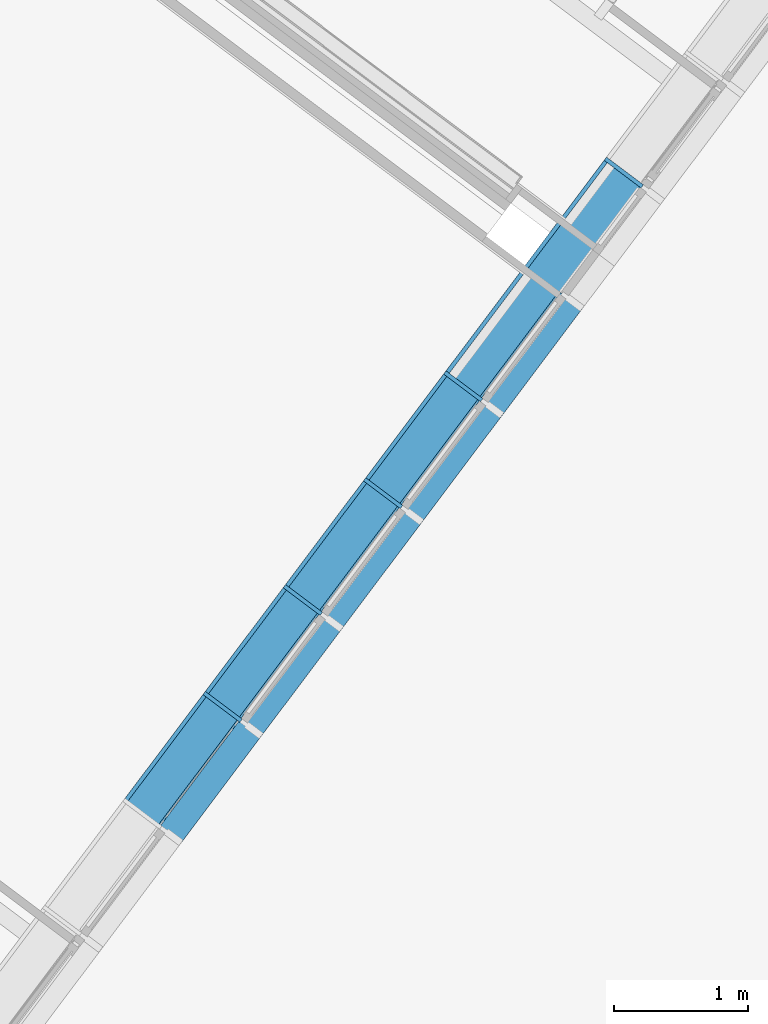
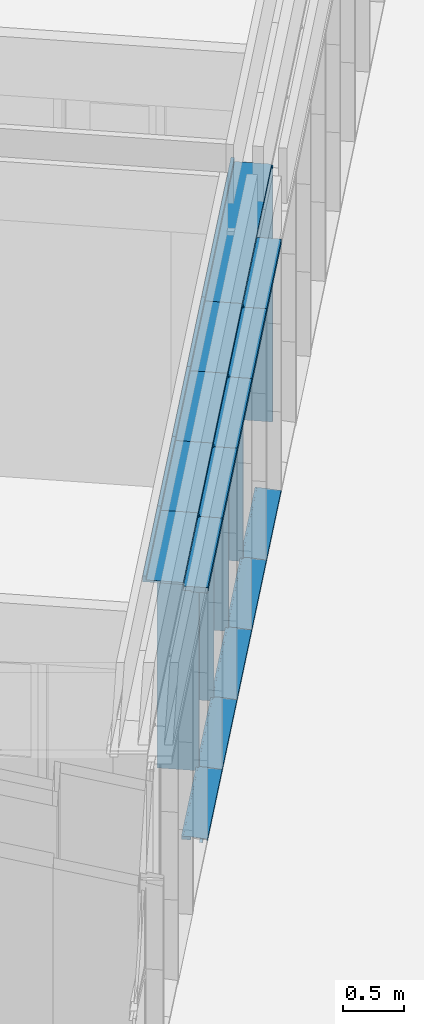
# One storey, part 14 of 243: 20 members, 2 elements without a shape of their own.
"""IFC2X3 building model written with IfcOpenShell, lengths in metres."""

from ifc_helpers import new_model, entity, si_unit, converted_unit, derived_unit, direction, frame, frame_2d, origin, place, context, subcontext, project, spatial, polyline, circle_curve, parameter, trimmed, segment, composite_curve, rectangle, outline, extrude, source, transform, mapped, material, type_object, type_shapes, element, aggregate, save


model = new_model("IFC2X3")

# Units and contexts
model_context = context("Model", 3, precision=1e-05, world=origin(), true_north=direction((6.123031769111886e-17, 1.0)))
body_context = subcontext(model_context, "Body", "Model", "MODEL_VIEW")
ifc_project = project(units=[si_unit("LENGTHUNIT", "METRE"), si_unit("AREAUNIT", "SQUARE_METRE"), si_unit("VOLUMEUNIT", "CUBIC_METRE"), converted_unit("PLANEANGLEUNIT", "DEGREE", entity("IfcRatioMeasure", 0.017453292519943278), si_unit("PLANEANGLEUNIT", "RADIAN"), dimensions=[0, 0, 0, 0, 0, 0, 0]), si_unit("MASSUNIT", "GRAM", prefix="KILO"), derived_unit("MASSDENSITYUNIT", [(si_unit("MASSUNIT", "GRAM", prefix="KILO"), 1), (si_unit("LENGTHUNIT", "METRE"), -3)]), derived_unit("IONCONCENTRATIONUNIT", [(si_unit("MASSUNIT", "GRAM", prefix="KILO"), 1), (si_unit("LENGTHUNIT", "METRE"), -3)]), derived_unit("MOMENTOFINERTIAUNIT", [(si_unit("LENGTHUNIT", "METRE"), 4)]), si_unit("TIMEUNIT", "SECOND"), si_unit("FREQUENCYUNIT", "HERTZ"), si_unit("THERMODYNAMICTEMPERATUREUNIT", "DEGREE_CELSIUS"), derived_unit("THERMALTRANSMITTANCEUNIT", [(si_unit("MASSUNIT", "GRAM", prefix="KILO"), 1), (si_unit("THERMODYNAMICTEMPERATUREUNIT", "KELVIN"), -1), (si_unit("TIMEUNIT", "SECOND"), -3)]), derived_unit("THERMALCONDUCTANCEUNIT", [(si_unit("MASSUNIT", "GRAM", prefix="KILO"), 1), (si_unit("THERMODYNAMICTEMPERATUREUNIT", "KELVIN"), -1), (si_unit("TIMEUNIT", "SECOND"), -3), (si_unit("LENGTHUNIT", "METRE"), 1)]), derived_unit("VOLUMETRICFLOWRATEUNIT", [(si_unit("LENGTHUNIT", "METRE"), 3), (si_unit("TIMEUNIT", "SECOND"), -1)]), derived_unit("MASSFLOWRATEUNIT", [(si_unit("MASSUNIT", "GRAM", prefix="KILO"), 1), (si_unit("TIMEUNIT", "SECOND"), -1)]), derived_unit("ROTATIONALFREQUENCYUNIT", [(si_unit("TIMEUNIT", "SECOND"), -1)]), si_unit("ELECTRICCURRENTUNIT", "AMPERE"), si_unit("ELECTRICVOLTAGEUNIT", "VOLT"), si_unit("POWERUNIT", "WATT"), si_unit("FORCEUNIT", "NEWTON", prefix="KILO"), si_unit("ILLUMINANCEUNIT", "LUX"), si_unit("LUMINOUSFLUXUNIT", "LUMEN"), si_unit("LUMINOUSINTENSITYUNIT", "CANDELA"), derived_unit("USERDEFINED", [(si_unit("MASSUNIT", "GRAM", prefix="KILO"), -1), (si_unit("LENGTHUNIT", "METRE"), -2), (si_unit("TIMEUNIT", "SECOND"), 3), (si_unit("LUMINOUSFLUXUNIT", "LUMEN"), 1)]), derived_unit("USERDEFINED", [(si_unit("MASSUNIT", "GRAM", prefix="KILO"), 1), (si_unit("TIMEUNIT", "SECOND"), -3), (si_unit("LENGTHUNIT", "METRE"), 3), (si_unit("ELECTRICCURRENTUNIT", "AMPERE"), -2)]), derived_unit("SOUNDPOWERUNIT", [(si_unit("MASSUNIT", "GRAM", prefix="KILO"), 1), (si_unit("TIMEUNIT", "SECOND"), -3), (si_unit("LENGTHUNIT", "METRE"), 2)]), derived_unit("SOUNDPRESSUREUNIT", [(si_unit("MASSUNIT", "GRAM", prefix="KILO"), 1), (si_unit("LENGTHUNIT", "METRE"), -1), (si_unit("TIMEUNIT", "SECOND"), -2)]), derived_unit("LINEARVELOCITYUNIT", [(si_unit("LENGTHUNIT", "METRE"), 1), (si_unit("TIMEUNIT", "SECOND"), -1)]), si_unit("PRESSUREUNIT", "PASCAL"), derived_unit("USERDEFINED", [(si_unit("MASSUNIT", "GRAM", prefix="KILO"), 1), (si_unit("LENGTHUNIT", "METRE"), -2), (si_unit("TIMEUNIT", "SECOND"), -2)]), derived_unit("LINEARFORCEUNIT", [(si_unit("MASSUNIT", "GRAM", prefix="KILO"), 1), (si_unit("TIMEUNIT", "SECOND"), -2)]), derived_unit("PLANARFORCEUNIT", [(si_unit("MASSUNIT", "GRAM", prefix="KILO"), 1), (si_unit("LENGTHUNIT", "METRE"), -1), (si_unit("TIMEUNIT", "SECOND"), -2)]), derived_unit("SPECIFICHEATCAPACITYUNIT", [(si_unit("THERMODYNAMICTEMPERATUREUNIT", "KELVIN"), -1), (si_unit("LENGTHUNIT", "METRE"), 2), (si_unit("TIMEUNIT", "SECOND"), -2)]), derived_unit("HEATINGVALUEUNIT", [(si_unit("LENGTHUNIT", "METRE"), 2), (si_unit("TIMEUNIT", "SECOND"), -2)]), derived_unit("VAPORPERMEABILITYUNIT", [(si_unit("LENGTHUNIT", "METRE"), -1), (si_unit("TIMEUNIT", "SECOND"), 1)]), derived_unit("DYNAMICVISCOSITYUNIT", [(si_unit("MASSUNIT", "GRAM", prefix="KILO"), 1), (si_unit("TIMEUNIT", "SECOND"), -1), (si_unit("LENGTHUNIT", "METRE"), -1)]), derived_unit("THERMALEXPANSIONCOEFFICIENTUNIT", [(si_unit("THERMODYNAMICTEMPERATUREUNIT", "KELVIN"), -1)]), derived_unit("MODULUSOFELASTICITYUNIT", [(si_unit("MASSUNIT", "GRAM", prefix="KILO"), 1), (si_unit("LENGTHUNIT", "METRE"), -1), (si_unit("TIMEUNIT", "SECOND"), -2)]), derived_unit("ISOTHERMALMOISTURECAPACITYUNIT", [(si_unit("LENGTHUNIT", "METRE"), 3), (si_unit("MASSUNIT", "GRAM", prefix="KILO"), -1)]), derived_unit("MOISTUREDIFFUSIVITYUNIT", [(si_unit("TIMEUNIT", "SECOND"), -1), (si_unit("LENGTHUNIT", "METRE"), 2)])], contexts=[model_context])

# Site, building, storey
site_placement = place(None, frame((0.0, 0.0, 235.0), z_axis=(0.0, 0.0, 1.0), x_axis=(-0.7996477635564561, 0.6004693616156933, 0.0)))
site = spatial("IfcSite", under=ifc_project, at=site_placement, Name="Default", CompositionType="ELEMENT")
building_placement = place(site_placement, origin())
building = spatial("IfcBuilding", under=site, at=building_placement, CompositionType="ELEMENT")
storey_placement = place(building_placement, origin())
storey = spatial("IfcBuildingStorey", under=building, at=storey_placement, Name="P0- Escola", CompositionType="ELEMENT", Elevation=0.0)

# Curtain wall, members
curtain_wall_type_1 = type_object("IfcCurtainWallType", Name="Muro cortina:MC- EXT- MC2", PredefinedType="NOTDEFINED")
curtain_wall_1_placement = place(storey_placement, origin())
curtain_wall_1 = element("IfcCurtainWall", 1, at=curtain_wall_1_placement, inside=storey, type_object=curtain_wall_type_1, Name="Muro cortina:MC- EXT- MC2", ObjectType="Muro cortina:MC- EXT- MC2")
ifc_material_1 = material(Name="_Alumini- T1- Perfil")
member_type_1 = type_object("IfcMemberType", Name="Montante rectangular:MC- Alu- 140x52,5 cm- Fa patis- Superior", PredefinedType="MULLION", material=ifc_material_1)
shared_shape_1 = source(origin(), body_context, "Body", "SweptSolid", [
    extrude(outline(polyline([(-0.11366666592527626, -0.021249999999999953), (0.026333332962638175, -0.021249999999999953), (0.026333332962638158, -0.010000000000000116), (0.0873333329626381, -0.010000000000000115), (0.0873333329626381, 0.03125000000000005), (-0.11366666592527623, 0.031250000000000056), (-0.11366666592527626, -0.021249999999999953)])), frame((-0.031250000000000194, 0.0273333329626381, -1.0), z_axis=(0.0, 0.0, 1.0), x_axis=(0.0, -1.0, 0.0)), (0.0, 0.0, 1.0), 0.9999999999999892),
])
type_shapes(member_type_1, [shared_shape_1])
member_1_placement = place(curtain_wall_1_placement, frame((5.885147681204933, -29.990191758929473, 2.525), z_axis=(0.0, -1.0, 0.0), x_axis=(0.0, 0.0, 1.0)))
member_1 = element("IfcMember", 2, at=member_1_placement, type_object=member_type_1, material=ifc_material_1, Name="Montante rectangular:MC- Alu- 140x52,5 cm- Fa patis- Superior", ObjectType="Montante rectangular:MC- Alu- 140x52,5 cm- Fa patis- Superior", context=body_context, shape_type="MappedRepresentation", body=[
    mapped(shared_shape_1, transform((0.0, 0.0, 0.0), scale=1.0)),
])
member_2_placement = place(curtain_wall_1_placement, frame((5.885147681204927, -30.990191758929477, 2.525), z_axis=(0.0, -1.0, 0.0), x_axis=(0.0, 0.0, 1.0)))
member_2 = element("IfcMember", 3, at=member_2_placement, type_object=member_type_1, material=ifc_material_1, Name="Montante rectangular:MC- Alu- 140x52,5 cm- Fa patis- Superior", ObjectType="Montante rectangular:MC- Alu- 140x52,5 cm- Fa patis- Superior", context=body_context, shape_type="MappedRepresentation", body=[
    mapped(shared_shape_1, transform((0.0, 0.0, 0.0), scale=1.0)),
])
member_3_placement = place(curtain_wall_1_placement, frame((5.885147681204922, -31.990191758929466, 2.525), z_axis=(0.0, -1.0, 0.0), x_axis=(0.0, 0.0, 1.0)))
member_3 = element("IfcMember", 4, at=member_3_placement, type_object=member_type_1, material=ifc_material_1, Name="Montante rectangular:MC- Alu- 140x52,5 cm- Fa patis- Superior", ObjectType="Montante rectangular:MC- Alu- 140x52,5 cm- Fa patis- Superior", context=body_context, shape_type="MappedRepresentation", body=[
    mapped(shared_shape_1, transform((0.0, 0.0, 0.0), scale=1.0)),
])
member_4_placement = place(curtain_wall_1_placement, frame((5.8851476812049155, -32.99019175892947, 2.525), z_axis=(0.0, -1.0, 0.0), x_axis=(0.0, 0.0, 1.0)))
member_4 = element("IfcMember", 5, at=member_4_placement, type_object=member_type_1, material=ifc_material_1, Name="Montante rectangular:MC- Alu- 140x52,5 cm- Fa patis- Superior", ObjectType="Montante rectangular:MC- Alu- 140x52,5 cm- Fa patis- Superior", context=body_context, shape_type="MappedRepresentation", body=[
    mapped(shared_shape_1, transform((0.0, 0.0, 0.0), scale=1.0)),
])
member_5_placement = place(curtain_wall_1_placement, frame((5.88514768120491, -33.99019175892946, 2.525), z_axis=(0.0, -1.0, 0.0), x_axis=(0.0, 0.0, 1.0)))
member_5 = element("IfcMember", 6, at=member_5_placement, type_object=member_type_1, material=ifc_material_1, Name="Montante rectangular:MC- Alu- 140x52,5 cm- Fa patis- Superior", ObjectType="Montante rectangular:MC- Alu- 140x52,5 cm- Fa patis- Superior", context=body_context, shape_type="MappedRepresentation", body=[
    mapped(shared_shape_1, transform((0.0, 0.0, 0.0), scale=1.0)),
])
member_type_2 = type_object("IfcMemberType", Name="Montante rectangular:MC- Alu- 140x52,5 cm- Fa patis- inferior", PredefinedType="MULLION", material=ifc_material_1)
shared_shape_2 = source(origin(), body_context, "Body", "SweptSolid", [
    extrude(outline(composite_curve([segment(polyline([(0.1278672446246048, -0.02586710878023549), (0.14416724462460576, -0.025867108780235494)]), True, "CONTINUOUS"), segment(polyline([(0.14416724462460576, -0.025867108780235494), (0.1441672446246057, 0.009132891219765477)]), True, "CONTINUOUS"), segment(polyline([(0.1441672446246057, 0.009132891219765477), (0.06786724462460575, 0.009132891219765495)]), True, "CONTINUOUS"), segment(polyline([(0.06786724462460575, 0.009132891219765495), (0.06786724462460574, -0.021159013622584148)]), True, "CONTINUOUS"), segment(polyline([(0.06786724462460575, -0.02115901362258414), (-0.030132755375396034, -0.012332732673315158)]), True, "CONTINUOUS"), segment(polyline([(-0.03013275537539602, -0.012332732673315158), (-0.030132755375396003, 0.027132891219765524)]), True, "CONTINUOUS"), segment(polyline([(-0.030132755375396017, 0.02713289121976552), (-0.0021327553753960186, 0.02713289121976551)]), True, "CONTINUOUS"), segment(polyline([(-0.0021327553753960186, 0.027132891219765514), (-0.0021327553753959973, 0.029132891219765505)]), True, "CONTINUOUS"), segment(polyline([(-0.0021327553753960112, 0.029132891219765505), (-0.032132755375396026, 0.029132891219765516)]), True, "CONTINUOUS"), segment(polyline([(-0.032132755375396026, 0.029132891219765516), (-0.03213275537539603, -0.012152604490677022)]), True, "CONTINUOUS"), segment(polyline([(-0.03213275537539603, -0.012152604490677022), (-0.0701327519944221, -0.008730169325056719)]), True, "CONTINUOUS"), segment(polyline([(-0.0701327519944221, -0.008730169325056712), (-0.0701327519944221, 0.005766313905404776)]), True, "CONTINUOUS"), segment(trimmed(circle_curve(frame_2d((-0.0696327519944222, 0.0057663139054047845), x_axis=(-1.0, 0.0)), 0.0004999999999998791), [parameter(269.999999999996)], [parameter(0.0)], True, "PARAMETER"), False, "CONTINUOUS"), segment(polyline([(-0.0696327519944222, 0.00626631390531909), (-0.06213275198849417, 0.006266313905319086)]), True, "CONTINUOUS"), segment(polyline([(-0.06213275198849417, 0.006266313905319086), (-0.06213275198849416, 0.008266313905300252)]), True, "CONTINUOUS"), segment(polyline([(-0.06213275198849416, 0.008266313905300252), (-0.07013275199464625, 0.008266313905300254)]), True, "CONTINUOUS"), segment(trimmed(circle_curve(frame_2d((-0.07013275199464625, 0.006266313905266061), x_axis=(0.0, 1.0)), 0.0020000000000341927), [parameter(0.0)], [parameter(90.00000002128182)], True, "PARAMETER"), True, "CONTINUOUS"), segment(polyline([(-0.07213275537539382, 0.006266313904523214), (-0.07213275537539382, -0.008730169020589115)]), True, "CONTINUOUS"), segment(trimmed(circle_curve(frame_2d((-0.07013275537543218, -0.008730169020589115), x_axis=(-1.0, 0.0)), 0.0019999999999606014), [parameter(0.0)], [parameter(84.8535928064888)], True, "PARAMETER"), True, "CONTINUOUS"), segment(polyline([(-0.07031215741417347, -0.01072210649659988), (0.06786724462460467, -0.023167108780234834)]), True, "CONTINUOUS"), segment(polyline([(0.06786724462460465, -0.023167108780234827), (0.12786724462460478, -0.023167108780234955)]), True, "CONTINUOUS"), segment(polyline([(0.12786724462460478, -0.023167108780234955), (0.1278672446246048, -0.02586710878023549)]), True, "CONTINUOUS")], self_intersect=False)), frame((-0.029132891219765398, 0.06786724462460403, -1.0), z_axis=(0.0, 0.0, 1.0), x_axis=(0.0, -1.0, 0.0)), (0.0, 0.0, 1.0), 0.9999999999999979),
])
type_shapes(member_type_2, [shared_shape_2])
member_6_placement = place(curtain_wall_1_placement, frame((5.88514768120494, -28.990191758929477, -0.02), z_axis=(0.0, 1.0, 0.0), x_axis=(0.0, 0.0, -1.0)))
member_6 = element("IfcMember", 7, at=member_6_placement, type_object=member_type_2, material=ifc_material_1, Name="Montante rectangular:MC- Alu- 140x52,5 cm- Fa patis- inferior", ObjectType="Montante rectangular:MC- Alu- 140x52,5 cm- Fa patis- inferior", context=body_context, shape_type="MappedRepresentation", body=[
    mapped(shared_shape_2, transform((0.0, 0.0, 0.0), scale=1.0)),
])
member_7_placement = place(curtain_wall_1_placement, frame((5.885147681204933, -29.990191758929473, -0.02), z_axis=(0.0, 1.0, 0.0), x_axis=(0.0, 0.0, -1.0)))
member_7 = element("IfcMember", 8, at=member_7_placement, type_object=member_type_2, material=ifc_material_1, Name="Montante rectangular:MC- Alu- 140x52,5 cm- Fa patis- inferior", ObjectType="Montante rectangular:MC- Alu- 140x52,5 cm- Fa patis- inferior", context=body_context, shape_type="MappedRepresentation", body=[
    mapped(shared_shape_2, transform((0.0, 0.0, 0.0), scale=1.0)),
])
member_8_placement = place(curtain_wall_1_placement, frame((5.885147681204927, -30.990191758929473, -0.02), z_axis=(0.0, 1.0, 0.0), x_axis=(0.0, 0.0, -1.0)))
member_8 = element("IfcMember", 9, at=member_8_placement, type_object=member_type_2, material=ifc_material_1, Name="Montante rectangular:MC- Alu- 140x52,5 cm- Fa patis- inferior", ObjectType="Montante rectangular:MC- Alu- 140x52,5 cm- Fa patis- inferior", context=body_context, shape_type="MappedRepresentation", body=[
    mapped(shared_shape_2, transform((0.0, 0.0, 0.0), scale=1.0)),
])
member_9_placement = place(curtain_wall_1_placement, frame((5.885147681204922, -31.990191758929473, -0.02), z_axis=(0.0, 1.0, 0.0), x_axis=(0.0, 0.0, -1.0)))
member_9 = element("IfcMember", 10, at=member_9_placement, type_object=member_type_2, material=ifc_material_1, Name="Montante rectangular:MC- Alu- 140x52,5 cm- Fa patis- inferior", ObjectType="Montante rectangular:MC- Alu- 140x52,5 cm- Fa patis- inferior", context=body_context, shape_type="MappedRepresentation", body=[
    mapped(shared_shape_2, transform((0.0, 0.0, 0.0), scale=1.0)),
])
member_10_placement = place(curtain_wall_1_placement, frame((5.8851476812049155, -32.99019175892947, -0.02), z_axis=(0.0, 1.0, 0.0), x_axis=(0.0, 0.0, -1.0)))
member_10 = element("IfcMember", 11, at=member_10_placement, type_object=member_type_2, material=ifc_material_1, Name="Montante rectangular:MC- Alu- 140x52,5 cm- Fa patis- inferior", ObjectType="Montante rectangular:MC- Alu- 140x52,5 cm- Fa patis- inferior", context=body_context, shape_type="MappedRepresentation", body=[
    mapped(shared_shape_2, transform((0.0, 0.0, 0.0), scale=1.0)),
])
aggregate(curtain_wall_1, [member_6, member_1, member_7, member_2, member_8, member_3, member_9, member_4, member_10, member_5])

curtain_wall_type_2 = type_object("IfcCurtainWallType", Name="Muro cortina:MC- INT- k7- Aules infantil", PredefinedType="NOTDEFINED")
curtain_wall_2_placement = place(storey_placement, origin())
curtain_wall_2 = element("IfcCurtainWall", 12, at=curtain_wall_2_placement, inside=storey, type_object=curtain_wall_type_2, Name="Muro cortina:MC- INT- k7- Aules infantil", ObjectType="Muro cortina:MC- INT- k7- Aules infantil")
ifc_material_2 = material(Name="_Fusta massisa- T1")
member_type_3 = type_object("IfcMemberType", Name="Montante rectangular:MC- Fusta- 35x3 cm- Pati aules- Remat superior", PredefinedType="MULLION", material=ifc_material_2)
shared_shape_3 = source(origin(), body_context, "Body", "SweptSolid", [
    extrude(outline(polyline([(-0.2133333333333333, -0.02666666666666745), (0.12166666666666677, -0.02666666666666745), (0.1216666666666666, 0.03333333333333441), (0.09166666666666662, 0.03333333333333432), (0.0916666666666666, -0.006666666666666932), (-0.21333333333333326, -0.006666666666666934), (-0.2133333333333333, -0.02666666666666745)])), frame((-0.033333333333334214, 0.026666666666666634, -1.0), z_axis=(0.0, 0.0, 1.0), x_axis=(0.0, -1.0, 0.0)), (0.0, 0.0, 1.0), 0.9999999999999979),
])
type_shapes(member_type_3, [shared_shape_3])
member_11_placement = place(curtain_wall_2_placement, frame((6.185147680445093, -32.99019175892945, 2.6), z_axis=(0.0, -1.0, 0.0), x_axis=(0.0, 0.0, 1.0)))
member_11 = element("IfcMember", 13, at=member_11_placement, type_object=member_type_3, material=ifc_material_2, Name="Montante rectangular:MC- Fusta- 35x3 cm- Pati aules- Remat superior", ObjectType="Montante rectangular:MC- Fusta- 35x3 cm- Pati aules- Remat superior", context=body_context, shape_type="MappedRepresentation", body=[
    mapped(shared_shape_3, transform((0.0, 0.0, 0.0), scale=1.0)),
])
member_12_placement = place(curtain_wall_2_placement, frame((6.1851476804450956, -31.990191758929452, 2.6), z_axis=(0.0, -1.0, 0.0), x_axis=(0.0, 0.0, 1.0)))
member_12 = element("IfcMember", 14, at=member_12_placement, type_object=member_type_3, material=ifc_material_2, Name="Montante rectangular:MC- Fusta- 35x3 cm- Pati aules- Remat superior", ObjectType="Montante rectangular:MC- Fusta- 35x3 cm- Pati aules- Remat superior", context=body_context, shape_type="MappedRepresentation", body=[
    mapped(shared_shape_3, transform((0.0, 0.0, 0.0), scale=1.0)),
])
member_13_placement = place(curtain_wall_2_placement, frame((6.185147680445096, -30.990191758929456, 2.6), z_axis=(0.0, -1.0, 0.0), x_axis=(0.0, 0.0, 1.0)))
member_13 = element("IfcMember", 15, at=member_13_placement, type_object=member_type_3, material=ifc_material_2, Name="Montante rectangular:MC- Fusta- 35x3 cm- Pati aules- Remat superior", ObjectType="Montante rectangular:MC- Fusta- 35x3 cm- Pati aules- Remat superior", context=body_context, shape_type="MappedRepresentation", body=[
    mapped(shared_shape_3, transform((0.0, 0.0, 0.0), scale=1.0)),
])
member_14_placement = place(curtain_wall_2_placement, frame((6.185147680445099, -29.99019175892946, 2.6), z_axis=(0.0, -1.0, 0.0), x_axis=(0.0, 0.0, 1.0)))
member_14 = element("IfcMember", 16, at=member_14_placement, type_object=member_type_3, material=ifc_material_2, Name="Montante rectangular:MC- Fusta- 35x3 cm- Pati aules- Remat superior", ObjectType="Montante rectangular:MC- Fusta- 35x3 cm- Pati aules- Remat superior", context=body_context, shape_type="MappedRepresentation", body=[
    mapped(shared_shape_3, transform((0.0, 0.0, 0.0), scale=1.0)),
])
member_type_4 = type_object("IfcMemberType", Name="Montante rectangular:MC- Fusta- 35x3 cm- Centre", PredefinedType="MULLION", material=ifc_material_2)
shared_shape_4 = source(origin(), body_context, "Body", "SweptSolid", [
    extrude(rectangle(XDim=0.3450000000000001, YDim=0.030000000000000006, at=frame_2d((0.0, 1.3964523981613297e-16), x_axis=(1.0, 0.0))), frame((0.0, 0.07750000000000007, -2.5399999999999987), z_axis=(0.0, 0.0, 1.0), x_axis=(0.0, -1.0, 0.0)), (0.0, 0.0, 1.0), 2.5399999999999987),
])
type_shapes(member_type_4, [shared_shape_4])
member_15_placement = place(curtain_wall_2_placement, frame((6.18514768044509, -34.99019175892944, 0.0), z_axis=(0.0, 0.0, -1.0), x_axis=(0.0, -1.0, 0.0)))
member_15 = element("IfcMember", 17, at=member_15_placement, type_object=member_type_4, material=ifc_material_2, Name="Montante rectangular:MC- Fusta- 35x3 cm- Centre", ObjectType="Montante rectangular:MC- Fusta- 35x3 cm- Centre", context=body_context, shape_type="MappedRepresentation", body=[
    mapped(shared_shape_4, transform((0.0, 0.0, 0.0), scale=1.0)),
])
member_16_placement = place(curtain_wall_2_placement, frame((6.185147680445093, -32.990191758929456, 0.0), z_axis=(0.0, 0.0, -1.0), x_axis=(0.0, -1.0, 0.0)))
member_16 = element("IfcMember", 18, at=member_16_placement, type_object=member_type_4, material=ifc_material_2, Name="Montante rectangular:MC- Fusta- 35x3 cm- Centre", ObjectType="Montante rectangular:MC- Fusta- 35x3 cm- Centre", context=body_context, shape_type="MappedRepresentation", body=[
    mapped(shared_shape_4, transform((0.0, 0.0, 0.0), scale=1.0)),
])
member_17_placement = place(curtain_wall_2_placement, frame((6.1851476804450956, -31.990191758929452, 0.0), z_axis=(0.0, 0.0, -1.0), x_axis=(0.0, -1.0, 0.0)))
member_17 = element("IfcMember", 19, at=member_17_placement, type_object=member_type_4, material=ifc_material_2, Name="Montante rectangular:MC- Fusta- 35x3 cm- Centre", ObjectType="Montante rectangular:MC- Fusta- 35x3 cm- Centre", context=body_context, shape_type="MappedRepresentation", body=[
    mapped(shared_shape_4, transform((0.0, 0.0, 0.0), scale=1.0)),
])
member_18_placement = place(curtain_wall_2_placement, frame((6.185147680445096, -30.990191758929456, 0.0), z_axis=(0.0, 0.0, -1.0), x_axis=(0.0, -1.0, 0.0)))
member_18 = element("IfcMember", 20, at=member_18_placement, type_object=member_type_4, material=ifc_material_2, Name="Montante rectangular:MC- Fusta- 35x3 cm- Centre", ObjectType="Montante rectangular:MC- Fusta- 35x3 cm- Centre", context=body_context, shape_type="MappedRepresentation", body=[
    mapped(shared_shape_4, transform((0.0, 0.0, 0.0), scale=1.0)),
])
member_19_placement = place(curtain_wall_2_placement, frame((6.185147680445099, -29.990191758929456, 0.0), z_axis=(0.0, 0.0, -1.0), x_axis=(0.0, -1.0, 0.0)))
member_19 = element("IfcMember", 21, at=member_19_placement, type_object=member_type_4, material=ifc_material_2, Name="Montante rectangular:MC- Fusta- 35x3 cm- Centre", ObjectType="Montante rectangular:MC- Fusta- 35x3 cm- Centre", context=body_context, shape_type="MappedRepresentation", body=[
    mapped(shared_shape_4, transform((0.0, 0.0, 0.0), scale=1.0)),
])
member_type_5 = type_object("IfcMemberType", Name="Montante rectangular:MC- Fusta- 35x3 cm- Pati aules- Remat superior", PredefinedType="MULLION", material=ifc_material_2)
shared_shape_5 = source(origin(), body_context, "Body", "SweptSolid", [
    extrude(outline(polyline([(-0.21333333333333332, -0.02666666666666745), (0.12166666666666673, -0.02666666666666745), (0.12166666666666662, 0.03333333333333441), (0.09166666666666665, 0.03333333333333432), (0.09166666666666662, -0.006666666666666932), (-0.21333333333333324, -0.006666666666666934), (-0.21333333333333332, -0.02666666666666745)])), frame((-0.033333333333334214, 0.026666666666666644, -2.0), z_axis=(0.0, 0.0, 1.0), x_axis=(0.0, -1.0, 0.0)), (0.0, 0.0, 1.0), 1.9999999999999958),
])
type_shapes(member_type_5, [shared_shape_5])
member_20_placement = place(curtain_wall_2_placement, frame((6.18514768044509, -34.99019175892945, 2.6), z_axis=(0.0, -1.0, 0.0), x_axis=(0.0, 0.0, 1.0)))
member_20 = element("IfcMember", 22, at=member_20_placement, type_object=member_type_5, material=ifc_material_2, Name="Montante rectangular:MC- Fusta- 35x3 cm- Pati aules- Remat superior", ObjectType="Montante rectangular:MC- Fusta- 35x3 cm- Pati aules- Remat superior", context=body_context, shape_type="MappedRepresentation", body=[
    mapped(shared_shape_5, transform((0.0, 0.0, 0.0), scale=1.0)),
])
aggregate(curtain_wall_2, [member_20, member_15, member_11, member_16, member_12, member_17, member_13, member_18, member_14, member_19])

save(model, "model.ifc")
